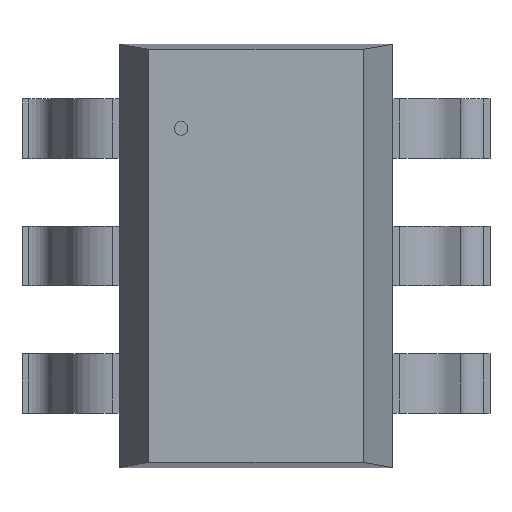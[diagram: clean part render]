
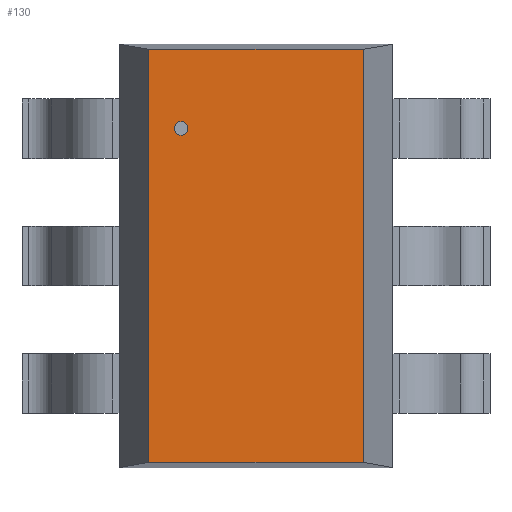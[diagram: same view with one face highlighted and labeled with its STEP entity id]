
A CAD part, top view. The second image highlights one B-rep face of the part: STEP entity #130.
In plain terms, the highlighted planar face has unit normal (0, 0, 1).
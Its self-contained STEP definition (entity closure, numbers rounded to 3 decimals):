
#130=ADVANCED_FACE('',(#136),#131,.T.);
#131=PLANE('',#132);
#132=AXIS2_PLACEMENT_3D('',#133,#134,#135);
#133=CARTESIAN_POINT('',(-0.546,-1.054,1.092));
#134=DIRECTION('',(0.0,0.0,1.0));
#135=DIRECTION('',(0.,1.,0.));
#136=FACE_OUTER_BOUND('',#137,.T.);
#137=EDGE_LOOP('',(#138,#148,#158,#168));
#141=CARTESIAN_POINT('',(0.546,-1.054,1.092));
#140=VERTEX_POINT('',#141);
#143=CARTESIAN_POINT('',(-0.546,-1.054,1.092));
#142=VERTEX_POINT('',#143);
#139=EDGE_CURVE('',#140,#142,#144,.T.);
#144=LINE('',#141,#146);
#146=VECTOR('',#147,1.092);
#147=DIRECTION('',(-1.0,0.0,0.0));
#138=ORIENTED_EDGE('',*,*,#139,.F.);
#151=CARTESIAN_POINT('',(0.546,1.054,1.092));
#150=VERTEX_POINT('',#151);
#149=EDGE_CURVE('',#150,#140,#154,.T.);
#154=LINE('',#151,#156);
#156=VECTOR('',#157,2.108);
#157=DIRECTION('',(0.0,-1.0,0.0));
#148=ORIENTED_EDGE('',*,*,#149,.F.);
#161=CARTESIAN_POINT('',(-0.546,1.054,1.092));
#160=VERTEX_POINT('',#161);
#159=EDGE_CURVE('',#160,#150,#164,.T.);
#164=LINE('',#161,#166);
#166=VECTOR('',#167,1.092);
#167=DIRECTION('',(1.0,0.0,0.0));
#158=ORIENTED_EDGE('',*,*,#159,.F.);
#169=EDGE_CURVE('',#142,#160,#174,.T.);
#174=LINE('',#143,#176);
#176=VECTOR('',#177,2.108);
#177=DIRECTION('',(0.0,1.0,0.0));
#168=ORIENTED_EDGE('',*,*,#169,.F.);
